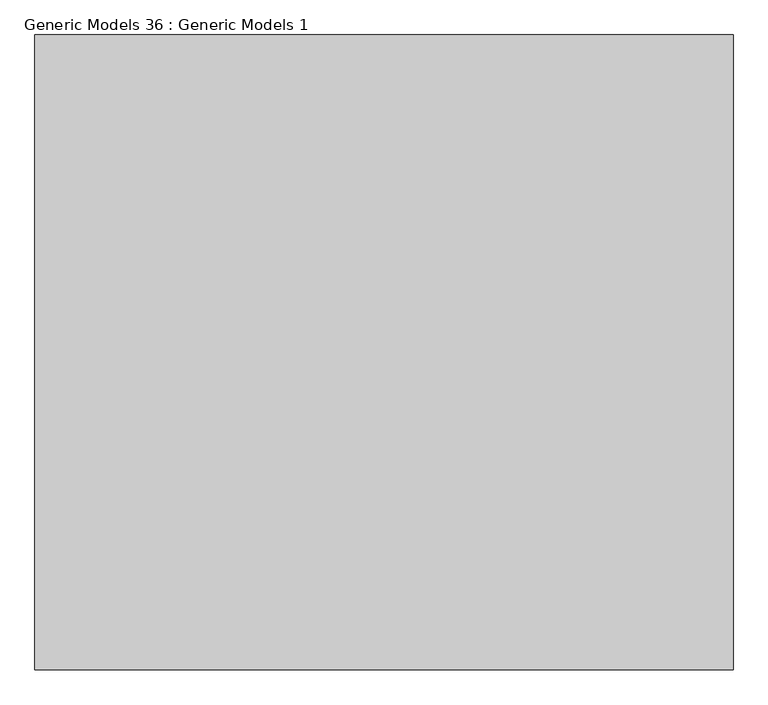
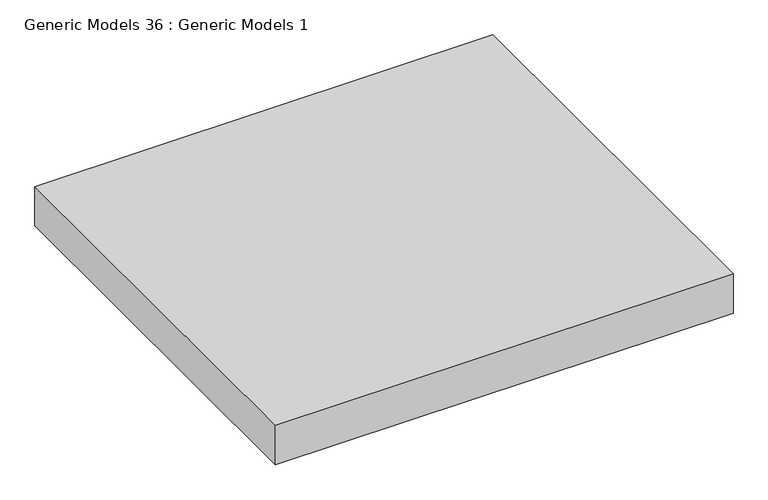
"""IFC4 building model written with IfcOpenShell, lengths in millimetres: proxy geometry, Generic Models 36 : Generic Models 1."""

import ifcopenshell
import ifcopenshell.guid

model = None  # the IFC model being written
_history = None  # IfcOwnerHistory: only IFC2X3 demands one
_inside = {}  # id of a spatial element -> (the spatial element, [elements in it])
_under = {}  # id of a project, library or spatial element -> (it, [spatial elements below it])
_declared = {}  # id of a project -> (the project, [libraries it declares])
_typed = {}  # id of a type object -> (the type object, [elements of that type])
_made_of = {}  # id of a material, layer set ... -> (it, [elements and type objects made of it])


def new_model(schema):
    """Start an empty IFC model of exactly this schema.

    Asked for "IFC4X3", IfcOpenShell would pick the latest addendum, in which some entities
    have other attributes; the version numbers below select the first issue.
    IFC2X3 requires an IfcOwnerHistory on every rooted entity: one is made here for all.
    """
    global model, _history
    if schema == "IFC4X3":
        model = ifcopenshell.file(schema_version=(4, 3, 0, 0))
    else:
        model = ifcopenshell.file(schema=schema)
    _inside.clear()
    _under.clear()
    _declared.clear()
    _typed.clear()
    _made_of.clear()
    _history = None
    if model.schema == "IFC2X3":
        org = make("IfcOrganization", Name="unknown")
        user = make(
            "IfcPersonAndOrganization",
            ThePerson=make("IfcPerson", FamilyName="unknown"),
            TheOrganization=org,
        )
        app = make(
            "IfcApplication",
            ApplicationDeveloper=org,
            Version="unknown",
            ApplicationFullName="unknown",
            ApplicationIdentifier="unknown",
        )
        _history = make(
            "IfcOwnerHistory",
            OwningUser=user,
            OwningApplication=app,
            ChangeAction="ADDED",
            CreationDate=0,
        )
    return model


def make(cls, **values):
    """One entity of the class cls with the attributes given. An attribute that is None is left unset."""
    return model.create_entity(
        cls, **{name: value for name, value in values.items() if value is not None}
    )


def rooted(cls, **values):
    """An entity with a GlobalId (a new one), such as an element, a storey or a relation."""
    return make(cls, GlobalId=ifcopenshell.guid.new(), OwnerHistory=_history, **values)


def si_unit(unit_type, name, prefix=None):
    """IfcSIUnit, for example si_unit("LENGTHUNIT", "METRE", prefix="MILLI")."""
    return make("IfcSIUnit", UnitType=unit_type, Prefix=prefix, Name=name)


def assignment(units):
    """IfcUnitAssignment: the units of a project."""
    return None if units is None else make("IfcUnitAssignment", Units=units)


def point(xyz):
    """IfcCartesianPoint."""
    return None if xyz is None else make("IfcCartesianPoint", Coordinates=xyz)


def direction(xyz):
    """IfcDirection."""
    return None if xyz is None else make("IfcDirection", DirectionRatios=xyz)


def frame(location, z_axis=None, x_axis=None):
    """IfcAxis2Placement3D, a coordinate frame: its origin and axes. An axis left out is left unset."""
    return make(
        "IfcAxis2Placement3D",
        Location=point(location),
        Axis=direction(z_axis),
        RefDirection=direction(x_axis),
    )


def origin():
    """The frame at (0, 0, 0) with its axes left unset."""
    return frame((0.0, 0.0, 0.0))


def origin_with_axes():
    """The frame at (0, 0, 0) with the z axis (0, 0, 1) and the x axis (1, 0, 0) written out."""
    return frame((0.0, 0.0, 0.0), z_axis=(0.0, 0.0, 1.0), x_axis=(1.0, 0.0, 0.0))


def place(relative_to, where):
    """IfcLocalPlacement: puts the frame where relative to a parent placement (None: the world)."""
    return make(
        "IfcLocalPlacement", PlacementRelTo=relative_to, RelativePlacement=where
    )


def context(
    kind, dimensions, precision=None, world=None, true_north=None, identifier=None
):
    """IfcGeometricRepresentationContext, for example the 3D "Model" context."""
    return make(
        "IfcGeometricRepresentationContext",
        ContextIdentifier=identifier,
        ContextType=kind,
        CoordinateSpaceDimension=dimensions,
        Precision=precision,
        WorldCoordinateSystem=world,
        TrueNorth=true_north,
    )


def project(units=None, contexts=None):
    """IfcProject with its units and contexts."""
    return rooted(
        "IfcProject",
        Name="project",
        RepresentationContexts=contexts,
        UnitsInContext=assignment(units),
    )


def spatial(cls, under=None, at=None, **own):
    """A site, building, storey or space (cls), placed at a placement, below another one or the project."""
    s = rooted(cls, ObjectPlacement=at, **own)
    if under is not None:
        _under.setdefault(under.id(), (under, []))[1].append(s)
    return s


def polyline(points):
    """IfcPolyline through the points."""
    return make("IfcPolyline", Points=[point(p) for p in points])


def outline(outer, holes=None, kind="AREA"):
    """IfcArbitraryClosedProfileDef: a profile drawn as a closed curve; with holes, ...WithVoids."""
    if holes is None:
        return make("IfcArbitraryClosedProfileDef", ProfileType=kind, OuterCurve=outer)
    return make(
        "IfcArbitraryProfileDefWithVoids",
        ProfileType=kind,
        OuterCurve=outer,
        InnerCurves=holes,
    )


def extrude(swept, where, along, depth):
    """IfcExtrudedAreaSolid: the profile swept, set in the frame where, extruded along a direction by depth."""
    return make(
        "IfcExtrudedAreaSolid",
        SweptArea=swept,
        Position=where,
        ExtrudedDirection=direction(along),
        Depth=depth,
    )


def shape(context_of_items, identifier, shape_type, items):
    """IfcShapeRepresentation: the items that make up one representation, for example the "Body"."""
    return make(
        "IfcShapeRepresentation",
        ContextOfItems=context_of_items,
        RepresentationIdentifier=identifier,
        RepresentationType=shape_type,
        Items=items,
    )


def source(mapping_origin, context_of_items, identifier, shape_type, items):
    """IfcRepresentationMap: a shape defined once, which mapped items show again and again."""
    return make(
        "IfcRepresentationMap",
        MappingOrigin=mapping_origin,
        MappedRepresentation=shape(context_of_items, identifier, shape_type, items),
    )


def transform(
    local_origin,
    x_axis=None,
    y_axis=None,
    z_axis=None,
    scale=None,
    scale2=None,
    scale3=None,
    uniform=True,
):
    """IfcCartesianTransformationOperator3D, or its non-uniform kind. x_axis, y_axis, z_axis: its Axis1, 2, 3."""
    if uniform:
        return make(
            "IfcCartesianTransformationOperator3D",
            Axis1=direction(x_axis),
            Axis2=direction(y_axis),
            LocalOrigin=point(local_origin),
            Scale=scale,
            Axis3=direction(z_axis),
        )
    return make(
        "IfcCartesianTransformationOperator3DnonUniform",
        Axis1=direction(x_axis),
        Axis2=direction(y_axis),
        LocalOrigin=point(local_origin),
        Scale=scale,
        Axis3=direction(z_axis),
        Scale2=scale2,
        Scale3=scale3,
    )


def mapped(mapping_source, mapping_target):
    """IfcMappedItem: shows the shape of a source again, moved by a transform."""
    return make(
        "IfcMappedItem", MappingSource=mapping_source, MappingTarget=mapping_target
    )


def made_of(thing, what):
    """Note that an element or type object is made of a material, layer set ...; save() writes the relation."""
    if what is not None:
        _made_of.setdefault(what.id(), (what, []))[1].append(thing)
    return thing


def element(
    cls,
    number,
    at=None,
    inside=None,
    cuts=None,
    type_object=None,
    material=None,
    context=None,
    identifier="Body",
    shape_type=None,
    held_by="IfcProductDefinitionShape",
    body=None,
    shapes=None,
    **own,
):
    """One element of the class cls, such as IfcWall. Its Tag is "e" and its number.

    at: its placement. inside: the storey or other place that contains it. cuts: it is an
    opening in that element (IfcRelVoidsElement). A single representation is given by context,
    identifier, shape_type and body (its items); several are given by shapes. held_by: the class
    of the entity that holds the representations. save() writes the other relations.
    """
    e = rooted(cls, Tag="e%d" % number, ObjectPlacement=at, **own)
    if body is not None:
        shapes = [shape(context, identifier, shape_type, body)]
    if shapes is not None:
        e.Representation = make(held_by, Representations=shapes)
    if inside is not None:
        _inside.setdefault(inside.id(), (inside, []))[1].append(e)
    if cuts is not None:
        rooted(
            "IfcRelVoidsElement", RelatingBuildingElement=cuts, RelatedOpeningElement=e
        )
    if type_object is not None:
        _typed.setdefault(type_object.id(), (type_object, []))[1].append(e)
    return made_of(e, material)


def aggregate(whole, parts):
    """IfcRelAggregates: a whole, such as a stair, and the parts it consists of."""
    return rooted("IfcRelAggregates", RelatingObject=whole, RelatedObjects=parts)


def save(model, path):
    """Write the relations noted so far, then the file.

    IfcRelAggregates (storeys below a building ...), IfcRelContainedInSpatialStructure (elements
    in a storey), IfcRelDefinesByType, IfcRelAssociatesMaterial and IfcRelDeclares: one each for
    every whole, place, type object, material and project.
    """
    for whole, parts in _under.values():
        aggregate(whole, parts)
    for where, things in _inside.values():
        rooted(
            "IfcRelContainedInSpatialStructure",
            RelatedElements=things,
            RelatingStructure=where,
        )
    for kind, things in _typed.values():
        rooted("IfcRelDefinesByType", RelatedObjects=things, RelatingType=kind)
    for what, things in _made_of.values():
        rooted("IfcRelAssociatesMaterial", RelatedObjects=things, RelatingMaterial=what)
    for by, libraries in _declared.values():
        rooted("IfcRelDeclares", RelatingContext=by, RelatedDefinitions=libraries)
    model.write(path)


def generic_models_36_generic_models_1_0abcf455(model_context):
    return source(origin(), model_context, "Body", "SweptSolid", [
        extrude(outline(polyline([(4341.0810265, -7746.5772826), (4341.0810265, -6746.5772826), (5441.0810265, -6746.5772826), (5441.0810265, -7746.5772826), (4341.0810265, -7746.5772826)])), origin_with_axes(), (0.0, 0.0, 1.0), 100.0),
    ])


if __name__ == "__main__":
    model = new_model("IFC4")
    model_context = context("Model", 3, world=origin())
    ifc_project = project(units=[si_unit("LENGTHUNIT", "METRE", prefix="MILLI")], contexts=[model_context])
    site = spatial("IfcSite", under=ifc_project)
    building = spatial("IfcBuilding", under=site)
    placement = place(None, origin())
    generic_models_36_generic_models_1_shape = generic_models_36_generic_models_1_0abcf455(model_context)
    element("IfcBuildingElementProxy", 1, Name="Generic Models 36 : Generic Models 1", ObjectType="Generic Models 36 : Generic Models 1", at=placement, inside=building, context=model_context, shape_type="MappedRepresentation", body=[
        mapped(generic_models_36_generic_models_1_shape, transform((0.0, 0.0, 0.0), x_axis=(1.0, 0.0, 0.0), y_axis=(0.0, 1.0, 0.0), z_axis=(0.0, 0.0, 1.0))),
    ])
    save(model, "model.ifc")
